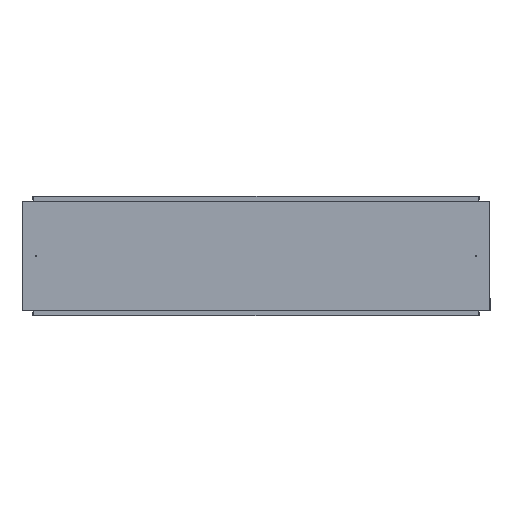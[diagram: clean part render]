
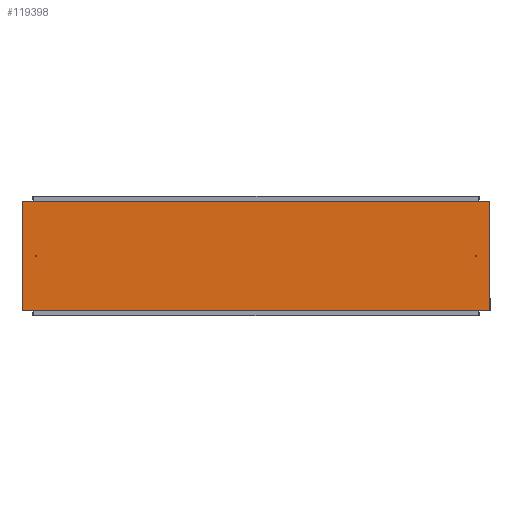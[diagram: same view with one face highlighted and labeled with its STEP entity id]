
A CAD part, left-side view. The second image highlights one B-rep face of the part: STEP entity #119398.
In plain terms, the highlighted planar face has unit normal (-1, 0, 0) as drawn and (0, 0, -1) by its records, which use the part's own axes.
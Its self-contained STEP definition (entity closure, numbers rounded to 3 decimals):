
#763 = VERTEX_POINT ( 'NONE', #35785 ) ;
#2197 = DIRECTION ( 'NONE',  ( 0., 1., 0. ) ) ;
#8641 = FACE_OUTER_BOUND ( 'NONE', #102984, .T. ) ;
#10490 = DIRECTION ( 'NONE',  ( 1., 0., 0. ) ) ;
#14665 = LINE ( 'NONE', #107507, #96056 ) ;
#16691 = CARTESIAN_POINT ( 'NONE',  ( -233.49, -998.5, 0. ) ) ;
#19027 = VERTEX_POINT ( 'NONE', #89372 ) ;
#24253 = PLANE ( 'NONE',  #75959 ) ;
#26038 = EDGE_CURVE ( 'NONE', #19027, #763, #107609, .T. ) ;
#26898 = CARTESIAN_POINT ( 'NONE',  ( 233.49, 998.5, 0. ) ) ;
#35785 = CARTESIAN_POINT ( 'NONE',  ( -233.49, -998.5, 0. ) ) ;
#36755 = VERTEX_POINT ( 'NONE', #26898 ) ;
#38516 = CARTESIAN_POINT ( 'NONE',  ( 233.49, 998.5, 0. ) ) ;
#42688 = DIRECTION ( 'NONE',  ( 1., 0., 0. ) ) ;
#45059 = EDGE_CURVE ( 'NONE', #49697, #36755, #69226, .T. ) ;
#46792 = ORIENTED_EDGE ( 'NONE', *, *, #84279, .F. ) ;
#48136 = VECTOR ( 'NONE', #10490, 1000. ) ;
#49697 = VERTEX_POINT ( 'NONE', #67612 ) ;
#50960 = DIRECTION ( 'NONE',  ( -1., 0., 0. ) ) ;
#51308 = DIRECTION ( 'NONE',  ( 0., 0., 1. ) ) ;
#51477 = ORIENTED_EDGE ( 'NONE', *, *, #26038, .F. ) ;
#56545 = VECTOR ( 'NONE', #2197, 1000. ) ;
#67612 = CARTESIAN_POINT ( 'NONE',  ( 233.49, -998.5, 0. ) ) ;
#67697 = DIRECTION ( 'NONE',  ( 0., -1., 0. ) ) ;
#69226 = LINE ( 'NONE', #38516, #56545 ) ;
#75959 = AXIS2_PLACEMENT_3D ( 'NONE', #16691, #51308, #42688 ) ;
#80398 = VECTOR ( 'NONE', #67697, 1000. ) ;
#82657 = ORIENTED_EDGE ( 'NONE', *, *, #105415, .F. ) ;
#84279 = EDGE_CURVE ( 'NONE', #763, #49697, #86102, .T. ) ;
#86102 = LINE ( 'NONE', #95954, #48136 ) ;
#89372 = CARTESIAN_POINT ( 'NONE',  ( -233.49, 998.5, 0. ) ) ;
#95954 = CARTESIAN_POINT ( 'NONE',  ( -233.49, -998.5, 0. ) ) ;
#96056 = VECTOR ( 'NONE', #50960, 1000. ) ;
#102813 = ORIENTED_EDGE ( 'NONE', *, *, #45059, .F. ) ;
#102984 = EDGE_LOOP ( 'NONE', ( #51477, #82657, #102813, #46792 ) ) ;
#105415 = EDGE_CURVE ( 'NONE', #36755, #19027, #14665, .T. ) ;
#107507 = CARTESIAN_POINT ( 'NONE',  ( -233.49, 998.5, 0. ) ) ;
#107609 = LINE ( 'NONE', #115007, #80398 ) ;
#115007 = CARTESIAN_POINT ( 'NONE',  ( -233.49, 998.5, 0. ) ) ;
#119398 = ADVANCED_FACE ( 'NONE', ( #8641 ), #24253, .F. ) ;
